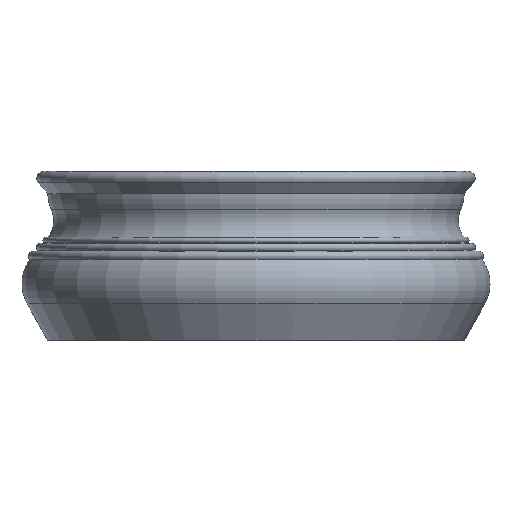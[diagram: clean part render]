
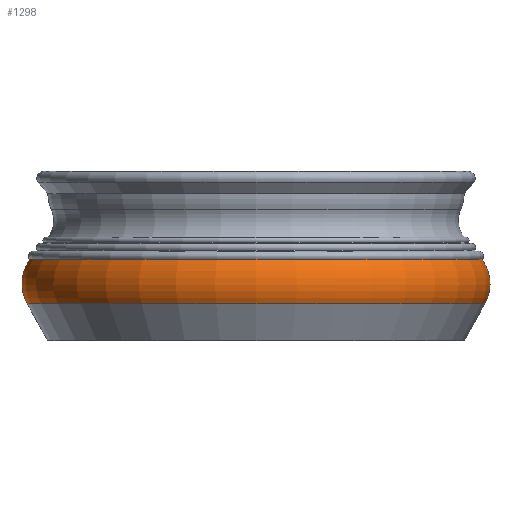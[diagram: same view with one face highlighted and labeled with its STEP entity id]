
A CAD part, front view. The second image highlights one B-rep face of the part: STEP entity #1298.
In plain terms, the highlighted toroidal (fillet/blend) face has major radius 142.45 mm and minor radius 30.55 mm.
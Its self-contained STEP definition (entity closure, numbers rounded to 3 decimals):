
#22=TOROIDAL_SURFACE('',#1475,142.45,30.55);
#164=FACE_OUTER_BOUND('',#280,.T.);
#280=EDGE_LOOP('',(#1187,#1188,#1189,#1190));
#517=CIRCLE('',#1439,169.128);
#539=CIRCLE('',#1476,167.152);
#540=CIRCLE('',#1477,30.55);
#642=VERTEX_POINT('',#2198);
#657=VERTEX_POINT('',#2257);
#805=EDGE_CURVE('',#642,#642,#517,.T.);
#834=EDGE_CURVE('',#657,#657,#539,.T.);
#835=EDGE_CURVE('',#657,#642,#540,.T.);
#1187=ORIENTED_EDGE('',*,*,#834,.F.);
#1188=ORIENTED_EDGE('',*,*,#835,.T.);
#1189=ORIENTED_EDGE('',*,*,#805,.T.);
#1190=ORIENTED_EDGE('',*,*,#835,.F.);
#1298=ADVANCED_FACE('',(#164),#22,.T.);
#1439=AXIS2_PLACEMENT_3D('',#2199,#1805,#1806);
#1475=AXIS2_PLACEMENT_3D('',#2256,#1884,#1885);
#1476=AXIS2_PLACEMENT_3D('',#2258,#1886,#1887);
#1477=AXIS2_PLACEMENT_3D('',#2259,#1888,#1889);
#1805=DIRECTION('center_axis',(0.,0.,1.));
#1806=DIRECTION('ref_axis',(1.,0.,0.));
#1884=DIRECTION('center_axis',(0.,0.,1.));
#1885=DIRECTION('ref_axis',(1.,0.,0.));
#1886=DIRECTION('center_axis',(0.,0.,1.));
#1887=DIRECTION('ref_axis',(1.,0.,0.));
#1888=DIRECTION('center_axis',(0.,-1.,0.));
#1889=DIRECTION('ref_axis',(-1.,0.,0.));
#2198=CARTESIAN_POINT('',(-169.128,0.,27.115));
#2199=CARTESIAN_POINT('Origin',(0.,0.,27.115));
#2256=CARTESIAN_POINT('Origin',(0.,0.,42.));
#2257=CARTESIAN_POINT('',(-167.152,0.,59.976));
#2258=CARTESIAN_POINT('Origin',(0.,0.,59.976));
#2259=CARTESIAN_POINT('Origin',(-142.45,0.,42.));
